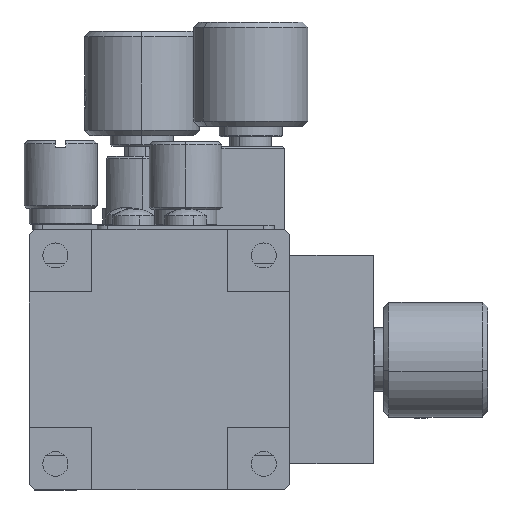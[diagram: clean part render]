
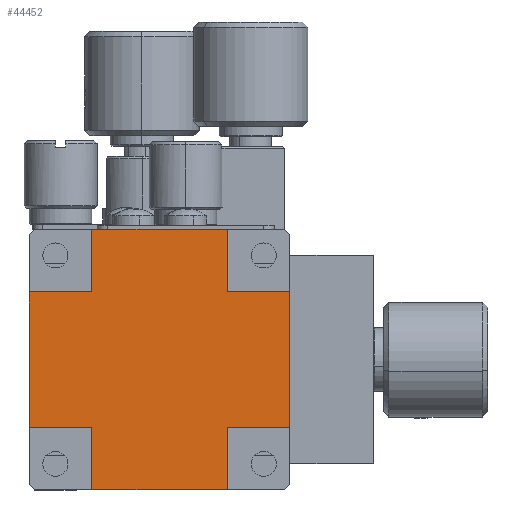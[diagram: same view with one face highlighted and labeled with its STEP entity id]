
A CAD part, front view. The second image highlights one B-rep face of the part: STEP entity #44452.
In plain terms, the highlighted planar face has unit normal (0, -1, 0).
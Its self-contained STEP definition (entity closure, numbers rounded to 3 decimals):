
#832 = PLANE ( 'NONE',  #120072 ) ;
#3572 = CARTESIAN_POINT ( 'NONE',  ( 4.617, -1.208, 66.383 ) ) ;
#7860 = EDGE_CURVE ( 'NONE', #8161, #90702, #49662, .T. ) ;
#8161 = VERTEX_POINT ( 'NONE', #30132 ) ;
#10136 = EDGE_CURVE ( 'NONE', #21909, #68358, #76749, .T. ) ;
#11907 = CARTESIAN_POINT ( 'NONE',  ( -14.383, -1.208, 53.383 ) ) ;
#13376 = VECTOR ( 'NONE', #58676, 1000. ) ;
#13427 = DIRECTION ( 'NONE',  ( 0., 0., 1. ) ) ;
#14110 = VERTEX_POINT ( 'NONE', #14478 ) ;
#14478 = CARTESIAN_POINT ( 'NONE',  ( -8.383, -1.208, 72.383 ) ) ;
#17071 = CARTESIAN_POINT ( 'NONE',  ( -14.383, -1.208, 53.383 ) ) ;
#17591 = LINE ( 'NONE', #110897, #13376 ) ;
#19017 = DIRECTION ( 'NONE',  ( -1., 0., 0. ) ) ;
#20261 = ORIENTED_EDGE ( 'NONE', *, *, #102781, .F. ) ;
#21909 = VERTEX_POINT ( 'NONE', #50804 ) ;
#21929 = VECTOR ( 'NONE', #100529, 1000. ) ;
#22174 = VECTOR ( 'NONE', #100633, 1000. ) ;
#23802 = CARTESIAN_POINT ( 'NONE',  ( 10.617, -1.208, 66.383 ) ) ;
#23845 = CARTESIAN_POINT ( 'NONE',  ( -14.383, -1.208, 47.383 ) ) ;
#24417 = DIRECTION ( 'NONE',  ( -1., 0., 0. ) ) ;
#26545 = EDGE_CURVE ( 'NONE', #51061, #42189, #81087, .T. ) ;
#29339 = VERTEX_POINT ( 'NONE', #111094 ) ;
#29601 = DIRECTION ( 'NONE',  ( 1., 0., 0. ) ) ;
#30132 = CARTESIAN_POINT ( 'NONE',  ( 4.617, -1.208, 53.383 ) ) ;
#30587 = LINE ( 'NONE', #63964, #80040 ) ;
#32230 = CARTESIAN_POINT ( 'NONE',  ( -8.383, -1.208, 72.383 ) ) ;
#36780 = VECTOR ( 'NONE', #54076, 1000. ) ;
#39119 = ORIENTED_EDGE ( 'NONE', *, *, #62409, .F. ) ;
#39365 = FACE_OUTER_BOUND ( 'NONE', #91144, .T. ) ;
#42189 = VERTEX_POINT ( 'NONE', #3572 ) ;
#42963 = LINE ( 'NONE', #77739, #36780 ) ;
#44452 = ADVANCED_FACE ( 'NONE', ( #39365 ), #832, .T. ) ;
#46782 = VERTEX_POINT ( 'NONE', #61101 ) ;
#46944 = EDGE_CURVE ( 'NONE', #120321, #133924, #42963, .T. ) ;
#49662 = LINE ( 'NONE', #92119, #21929 ) ;
#50804 = CARTESIAN_POINT ( 'NONE',  ( -14.383, -1.208, 66.383 ) ) ;
#51061 = VERTEX_POINT ( 'NONE', #119698 ) ;
#52956 = VECTOR ( 'NONE', #13427, 1000. ) ;
#53072 = CARTESIAN_POINT ( 'NONE',  ( 10.617, -1.208, 53.383 ) ) ;
#53240 = ORIENTED_EDGE ( 'NONE', *, *, #61340, .F. ) ;
#54076 = DIRECTION ( 'NONE',  ( 0., 0., 1. ) ) ;
#55110 = VECTOR ( 'NONE', #120560, 1000. ) ;
#57336 = EDGE_CURVE ( 'NONE', #73591, #14110, #66313, .T. ) ;
#57885 = ORIENTED_EDGE ( 'NONE', *, *, #10136, .T. ) ;
#58676 = DIRECTION ( 'NONE',  ( 1., 0., 0. ) ) ;
#60237 = VECTOR ( 'NONE', #24417, 1000. ) ;
#61101 = CARTESIAN_POINT ( 'NONE',  ( -8.383, -1.208, 53.383 ) ) ;
#61340 = EDGE_CURVE ( 'NONE', #46782, #68358, #134634, .T. ) ;
#61959 = VECTOR ( 'NONE', #19017, 1000. ) ;
#62409 = EDGE_CURVE ( 'NONE', #42189, #133924, #65481, .T. ) ;
#62826 = LINE ( 'NONE', #53072, #61959 ) ;
#63964 = CARTESIAN_POINT ( 'NONE',  ( -8.383, -1.208, 47.383 ) ) ;
#64681 = EDGE_CURVE ( 'NONE', #51061, #14110, #66879, .T. ) ;
#65481 = LINE ( 'NONE', #107952, #71163 ) ;
#66313 = LINE ( 'NONE', #32230, #52956 ) ;
#66668 = ORIENTED_EDGE ( 'NONE', *, *, #26545, .F. ) ;
#66879 = LINE ( 'NONE', #128828, #60237 ) ;
#68358 = VERTEX_POINT ( 'NONE', #11907 ) ;
#71163 = VECTOR ( 'NONE', #86367, 1000. ) ;
#71200 = ORIENTED_EDGE ( 'NONE', *, *, #46944, .T. ) ;
#73591 = VERTEX_POINT ( 'NONE', #100332 ) ;
#76749 = LINE ( 'NONE', #23845, #55110 ) ;
#77739 = CARTESIAN_POINT ( 'NONE',  ( 10.617, -1.208, 47.383 ) ) ;
#79051 = ORIENTED_EDGE ( 'NONE', *, *, #64681, .T. ) ;
#80040 = VECTOR ( 'NONE', #115493, 1000. ) ;
#80366 = EDGE_CURVE ( 'NONE', #29339, #90702, #96979, .T. ) ;
#80538 = ORIENTED_EDGE ( 'NONE', *, *, #136286, .F. ) ;
#81087 = LINE ( 'NONE', #122174, #87312 ) ;
#81806 = DIRECTION ( 'NONE',  ( 0., -1., 0. ) ) ;
#83055 = VECTOR ( 'NONE', #117144, 1000. ) ;
#83159 = CARTESIAN_POINT ( 'NONE',  ( -1.883, -1.208, 59.883 ) ) ;
#86367 = DIRECTION ( 'NONE',  ( 1., 0., 0. ) ) ;
#87312 = VECTOR ( 'NONE', #113109, 1000. ) ;
#88463 = CARTESIAN_POINT ( 'NONE',  ( 10.617, -1.208, 53.383 ) ) ;
#90702 = VERTEX_POINT ( 'NONE', #117255 ) ;
#91144 = EDGE_LOOP ( 'NONE', ( #128633, #102460, #20261, #71200, #39119, #66668, #79051, #100063, #92852, #57885, #53240, #80538 ) ) ;
#92119 = CARTESIAN_POINT ( 'NONE',  ( 4.617, -1.208, 47.383 ) ) ;
#92852 = ORIENTED_EDGE ( 'NONE', *, *, #132762, .F. ) ;
#96979 = LINE ( 'NONE', #129646, #83055 ) ;
#100063 = ORIENTED_EDGE ( 'NONE', *, *, #57336, .F. ) ;
#100332 = CARTESIAN_POINT ( 'NONE',  ( -8.383, -1.208, 66.383 ) ) ;
#100529 = DIRECTION ( 'NONE',  ( 0., 0., -1. ) ) ;
#100633 = DIRECTION ( 'NONE',  ( -1., 0., 0. ) ) ;
#102460 = ORIENTED_EDGE ( 'NONE', *, *, #7860, .F. ) ;
#102781 = EDGE_CURVE ( 'NONE', #120321, #8161, #62826, .T. ) ;
#107952 = CARTESIAN_POINT ( 'NONE',  ( 10.617, -1.208, 66.383 ) ) ;
#110897 = CARTESIAN_POINT ( 'NONE',  ( -14.383, -1.208, 66.383 ) ) ;
#111094 = CARTESIAN_POINT ( 'NONE',  ( -8.383, -1.208, 47.383 ) ) ;
#113109 = DIRECTION ( 'NONE',  ( 0., 0., -1. ) ) ;
#115493 = DIRECTION ( 'NONE',  ( 0., 0., 1. ) ) ;
#117144 = DIRECTION ( 'NONE',  ( 1., 0., 0. ) ) ;
#117255 = CARTESIAN_POINT ( 'NONE',  ( 4.617, -1.208, 47.383 ) ) ;
#119698 = CARTESIAN_POINT ( 'NONE',  ( 4.617, -1.208, 72.383 ) ) ;
#120072 = AXIS2_PLACEMENT_3D ( 'NONE', #83159, #81806, #29601 ) ;
#120321 = VERTEX_POINT ( 'NONE', #88463 ) ;
#120560 = DIRECTION ( 'NONE',  ( 0., 0., -1. ) ) ;
#122174 = CARTESIAN_POINT ( 'NONE',  ( 4.617, -1.208, 72.383 ) ) ;
#128633 = ORIENTED_EDGE ( 'NONE', *, *, #80366, .T. ) ;
#128828 = CARTESIAN_POINT ( 'NONE',  ( -14.383, -1.208, 72.383 ) ) ;
#129646 = CARTESIAN_POINT ( 'NONE',  ( -14.383, -1.208, 47.383 ) ) ;
#132762 = EDGE_CURVE ( 'NONE', #21909, #73591, #17591, .T. ) ;
#133924 = VERTEX_POINT ( 'NONE', #23802 ) ;
#134634 = LINE ( 'NONE', #17071, #22174 ) ;
#136286 = EDGE_CURVE ( 'NONE', #29339, #46782, #30587, .T. ) ;
